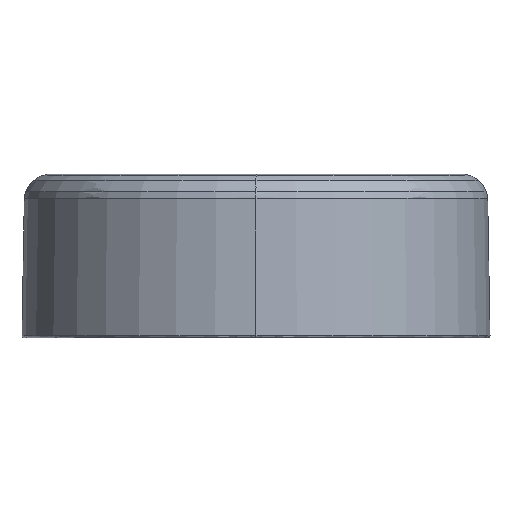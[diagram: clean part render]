
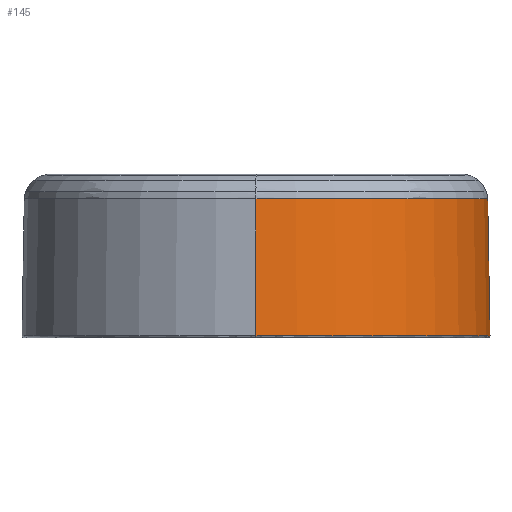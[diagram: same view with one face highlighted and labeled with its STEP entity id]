
A CAD part, left-side view. The second image highlights one B-rep face of the part: STEP entity #145.
In plain terms, the highlighted free-form (B-spline) face has degree [2, 1] with [3, 2] control points.
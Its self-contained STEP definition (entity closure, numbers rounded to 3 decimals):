
#49=B_SPLINE_CURVE_WITH_KNOTS('',1,(#3286,#3287),.UNSPECIFIED.,.F.,.F.,
(2,2),(-2709.724,-2592.898),.UNSPECIFIED.);
#50=B_SPLINE_CURVE_WITH_KNOTS('',1,(#3288,#3289),.UNSPECIFIED.,.F.,.F.,
(2,2),(2592.898,2709.724),.UNSPECIFIED.);
#145=ADVANCED_FACE('',(#225),#1258,.T.);
#225=FACE_OUTER_BOUND('',#305,.T.);
#305=EDGE_LOOP('',(#478,#479,#480,#481));
#478=ORIENTED_EDGE('',*,*,#813,.T.);
#479=ORIENTED_EDGE('',*,*,#811,.T.);
#480=ORIENTED_EDGE('',*,*,#810,.F.);
#481=ORIENTED_EDGE('',*,*,#812,.T.);
#810=EDGE_CURVE('',#1175,#1174,#978,.T.);
#811=EDGE_CURVE('',#1177,#1174,#49,.T.);
#812=EDGE_CURVE('',#1175,#1176,#50,.T.);
#813=EDGE_CURVE('',#1176,#1177,#979,.T.);
#978=TRIMMED_CURVE($,#1068,(#3284),(#3285),.T.,.CARTESIAN.);
#979=TRIMMED_CURVE($,#1069,(#3291),(#3292),.T.,.CARTESIAN.);
#1068=CIRCLE('',#1450,198.009);
#1069=CIRCLE('',#1451,199.966);
#1174=VERTEX_POINT('',#2955);
#1175=VERTEX_POINT('',#2956);
#1176=VERTEX_POINT('',#2957);
#1177=VERTEX_POINT('',#2958);
#1258=(
BOUNDED_SURFACE()
B_SPLINE_SURFACE(2,1,((#2176,#2177),(#2178,#2179),(#2180,#2181)),
 .UNSPECIFIED.,.F.,.F.,.F.)
B_SPLINE_SURFACE_WITH_KNOTS((3,3),(2,2),(0.,314.159),(2592.898,
2711.758),.UNSPECIFIED.)
GEOMETRIC_REPRESENTATION_ITEM()
RATIONAL_B_SPLINE_SURFACE(((1.,1.),(0.707,0.707),
(1.,1.)))
REPRESENTATION_ITEM('')
SURFACE()
);
#1450=AXIS2_PLACEMENT_3D($,#3283,#1590,#1591);
#1451=AXIS2_PLACEMENT_3D($,#3290,#1592,#1593);
#1590=DIRECTION('',(0.,0.,-1.));
#1591=DIRECTION('',(0.,-1.,0.));
#1592=DIRECTION('',(0.,0.,-1.));
#1593=DIRECTION('',(0.,-1.,0.));
#2176=CARTESIAN_POINT('',(-298.377,89.671,118.843));
#2177=CARTESIAN_POINT('',(-300.368,89.671,0.));
#2178=CARTESIAN_POINT('',(-298.377,-108.338,118.843));
#2179=CARTESIAN_POINT('',(-300.368,-110.329,0.));
#2180=CARTESIAN_POINT('',(-100.368,-108.338,118.843));
#2181=CARTESIAN_POINT('',(-100.368,-110.329,0.));
#2955=CARTESIAN_POINT('',(-298.377,89.671,118.843));
#2956=CARTESIAN_POINT('',(-100.368,-108.338,118.843));
#2957=CARTESIAN_POINT('',(-100.368,-110.294,2.033));
#2958=CARTESIAN_POINT('',(-300.334,89.671,2.033));
#3283=CARTESIAN_POINT('',(-100.368,89.671,118.843));
#3284=CARTESIAN_POINT('',(-100.368,-108.338,118.843));
#3285=CARTESIAN_POINT('',(-298.377,89.671,118.843));
#3286=CARTESIAN_POINT('',(-300.334,89.671,2.033));
#3287=CARTESIAN_POINT('',(-298.377,89.671,118.843));
#3288=CARTESIAN_POINT('',(-100.368,-108.338,118.843));
#3289=CARTESIAN_POINT('',(-100.368,-110.294,2.033));
#3290=CARTESIAN_POINT('',(-100.368,89.671,2.033));
#3291=CARTESIAN_POINT('',(-100.368,-110.294,2.033));
#3292=CARTESIAN_POINT('',(-300.334,89.671,2.033));
